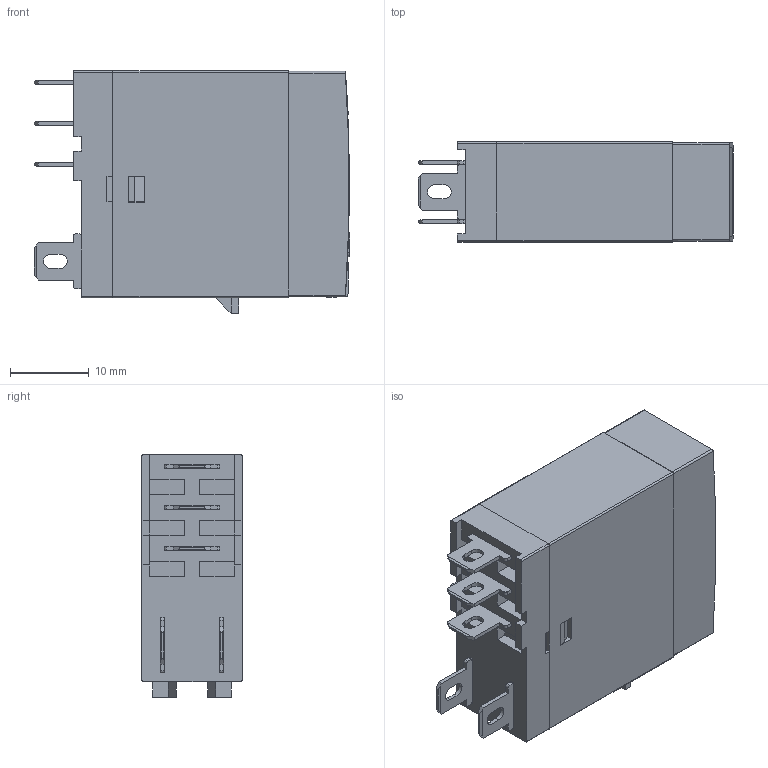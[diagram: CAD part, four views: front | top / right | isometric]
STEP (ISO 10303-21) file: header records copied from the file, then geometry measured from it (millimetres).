
FILE_DESCRIPTION (( 'STEP AP214' ), '1' );
FILE_NAME ('RN05-24AC.STEP', '2026-03-23T10:26:07', ( '' ), ( '' ), 'SwSTEP 2.0', 'SolidWorks 2025', '' );
FILE_SCHEMA (( 'AUTOMOTIVE_DESIGN' ));
Length unit declared in the file: millimetre
Products named in the file (1): RN05-24AC
Bounding box: 40.08 x 12.7 x 30.8 mm (x, y, z)
Volume: 4275 mm3; surface area: 11721.9 mm2
Topology: 12 solids, 12 shells, 1442 faces, 5032 edges, 3795 vertices
Faces by surface type: plane 1127, cylinder 290, cone 10, bspline 8, torus 7
Entity records: 78742 total; most frequent: CARTESIAN_POINT 19288, ORIENTED_EDGE 10064, DIRECTION 7657, EDGE_CURVE 5032, VERTEX_POINT 3795, VECTOR 3677, LINE 3677, AXIS2_PLACEMENT_3D 1990
